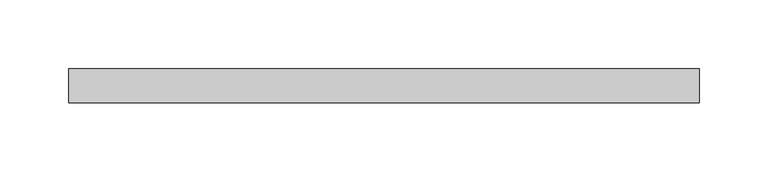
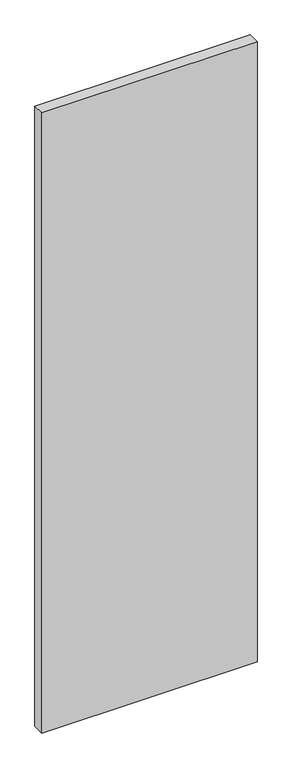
"""IFC4 building model written with IfcOpenShell, lengths in millimetres: plate geometry, Системная панель : ADSK_Cтеклопакет_25 мм."""

from ifc_helpers import new_model, si_unit, origin, origin_with_axes, place, context, project, spatial, polyline, outline, extrude, source, transform, mapped, element, save


def plate_f58014f5(model_context):
    return source(origin(), model_context, "Body", "SweptSolid", [
        extrude(outline(polyline([(230.0, -12.5), (-230.0, -12.5), (-230.0, 12.5), (230.0, 12.5), (230.0, -12.5)])), origin_with_axes(), (0.0, 0.0, 1.0), 1400.0),
    ])


if __name__ == "__main__":
    model = new_model("IFC4")
    model_context = context("Model", 3, world=origin())
    ifc_project = project(units=[si_unit("LENGTHUNIT", "METRE", prefix="MILLI")], contexts=[model_context])
    site = spatial("IfcSite", under=ifc_project)
    building = spatial("IfcBuilding", under=site)
    placement = place(None, origin())
    plate_shape = plate_f58014f5(model_context)
    element("IfcPlate", 1, ObjectType="Системная панель : ADSK_Cтеклопакет_25 мм", at=placement, inside=building, context=model_context, shape_type="MappedRepresentation", body=[
        mapped(plate_shape, transform((0.0, 0.0, 0.0), x_axis=(1.0, 0.0, 0.0), y_axis=(0.0, 1.0, 0.0), z_axis=(0.0, 0.0, 1.0))),
    ])
    save(model, "model.ifc")
